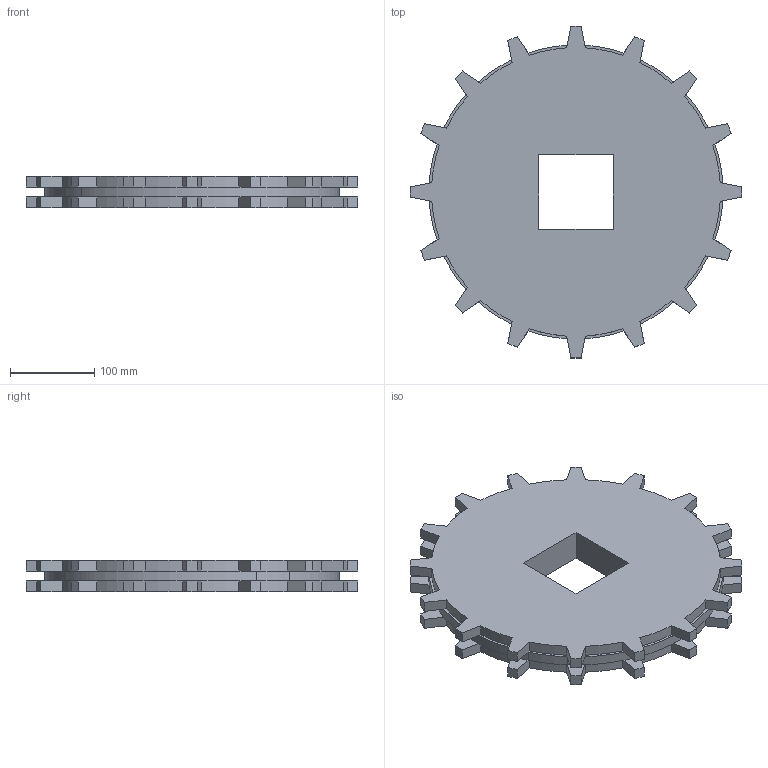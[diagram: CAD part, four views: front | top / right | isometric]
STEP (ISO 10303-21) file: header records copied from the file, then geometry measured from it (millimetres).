
FILE_DESCRIPTION((''),'2;1');
FILE_NAME('BASE_S10K_16T_SPROCKET','2013-06-25T',('CRGONZAL'),('INTRALOX'),'PRO/ENGINEER BY PARAMETRIC TECHNOLOGY CORPORATION, 2009460','PRO/ENGINEER BY PARAMETRIC TECHNOLOGY CORPORATION, 2009460','');
FILE_SCHEMA(('CONFIG_CONTROL_DESIGN'));
Length unit declared in the file: inch
Products named in the file (1): BASE_S10K_16T_SPROCKET
Bounding box: 394.03 x 394.03 x 37.59 mm (x, y, z)
Volume: 3397359.7 mm3; surface area: 271351.2 mm2
Topology: 1 solids, 1 shells, 200 faces, 526 edges, 328 vertices
Faces by surface type: plane 166, cylinder 34
Entity records: 6118 total; most frequent: DIRECTION 1054, CARTESIAN_POINT 1054, ORIENTED_EDGE 1052, EDGE_CURVE 526, VECTOR 398, LINE 398, AXIS2_PLACEMENT_3D 328, VERTEX_POINT 328
